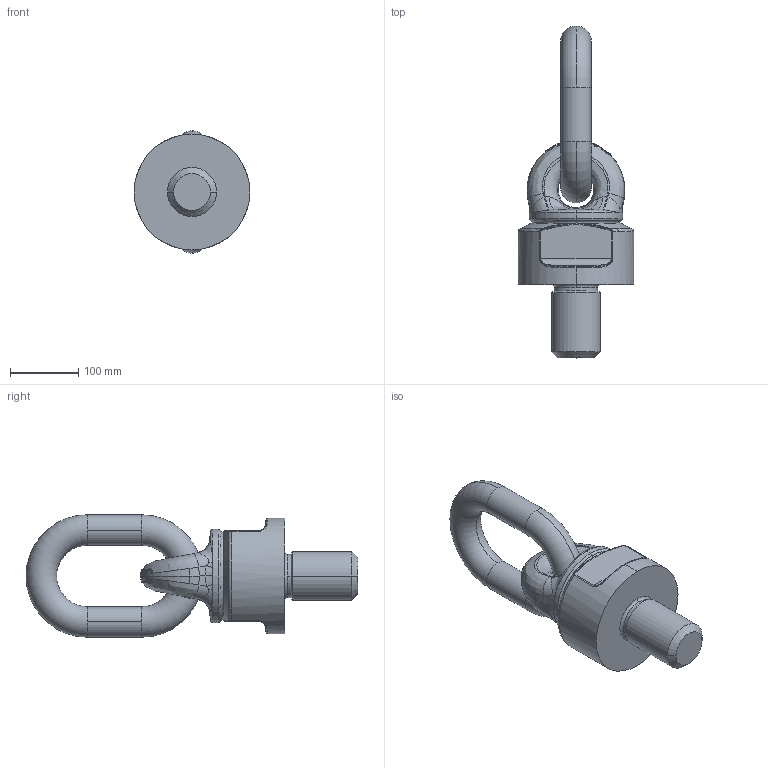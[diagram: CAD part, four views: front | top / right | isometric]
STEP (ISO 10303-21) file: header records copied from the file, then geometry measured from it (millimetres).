
FILE_DESCRIPTION(('STEP AP214'),'1');
FILE_NAME('c8002572108.stp','2017-03-22T14:31:15',('TraceParts'),('TraceParts S.A.'),'Spatial InterOp 3D',' ',' ');
FILE_SCHEMA(('automotive_design'));
Length unit declared in the file: millimetre
Products named in the file (3): c8002572108_1; c8002572108_2; c8002572108_3
Bounding box: 170 x 488 x 180 mm (x, y, z)
Volume: 3953960 mm3; surface area: 284740.8 mm2
Topology: 3 solids, 3 shells, 325 faces, 904 edges, 567 vertices
Faces by surface type: bspline 156, plane 67, cone 52, cylinder 26, torus 24
Entity records: 25321 total; most frequent: CARTESIAN_POINT 15289, ORIENTED_EDGE 1774, DIRECTION 1302, EDGE_CURVE 887, VERTEX_POINT 567, AXIS2_PLACEMENT_3D 561, STYLED_ITEM 328, PRESENTATION_STYLE_ASSIGNMENT 328
